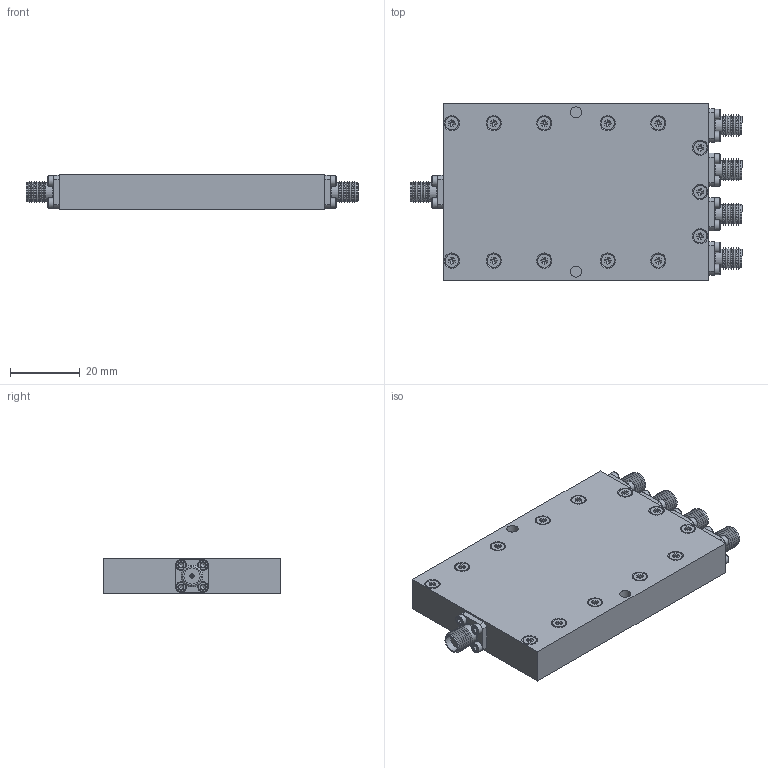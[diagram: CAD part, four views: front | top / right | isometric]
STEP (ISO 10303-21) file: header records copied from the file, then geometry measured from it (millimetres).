
FILE_DESCRIPTION(/* description */ ('Unknown'),/* implementation_level */ '2;1');
FILE_NAME(/* name */ 'DETI_MICROWAVE_4-WAY_POWER_DIVIDER_800288_STEP',/* time_stamp */ '2021-06-28T09:26:01+02:00',/* author */ ('ALG'),/* organization */ ('DETI'),/* preprocessor_version */ 'ST-DEVELOPER v16.7',/* originating_system */ 'Solid Edge',/* authorisation */ 'Unknown');
FILE_SCHEMA (('AUTOMOTIVE_DESIGN {1 0 10303 214 3 1 1}'));
Length unit declared in the file: millimetre
Products named in the file (1): 800055 0A 1601A2
Bounding box: 95.2 x 50.8 x 10.29 mm (x, y, z)
Volume: 41238.3 mm3; surface area: 13831.2 mm2
Topology: 1 solids, 59 shells, 1123 faces, 2770 edges, 1825 vertices
Faces by surface type: plane 686, cylinder 196, cone 183, torus 58
Full cylindrical faces by diameter (mm): 0.47 x5, 1.1 x5, 1.221 x20, 1.27 x10, 1.567 x13, 1.6 x20, 1.8 x20, 2 x13, 2.2 x13, 3 x20, 3.2 x4, 3.8 x13, 4.1 x5, 4.6 x5, 5.3 x10
Entity records: 36807 total; most frequent: CARTESIAN_POINT 5214, DIRECTION 4802, ORIENTED_EDGE 4238, EDGE_CURVE 2119, FACE_BOUND 1716, AXIS2_PLACEMENT_3D 1689, EDGE_LOOP 1676, VERTEX_POINT 1631
